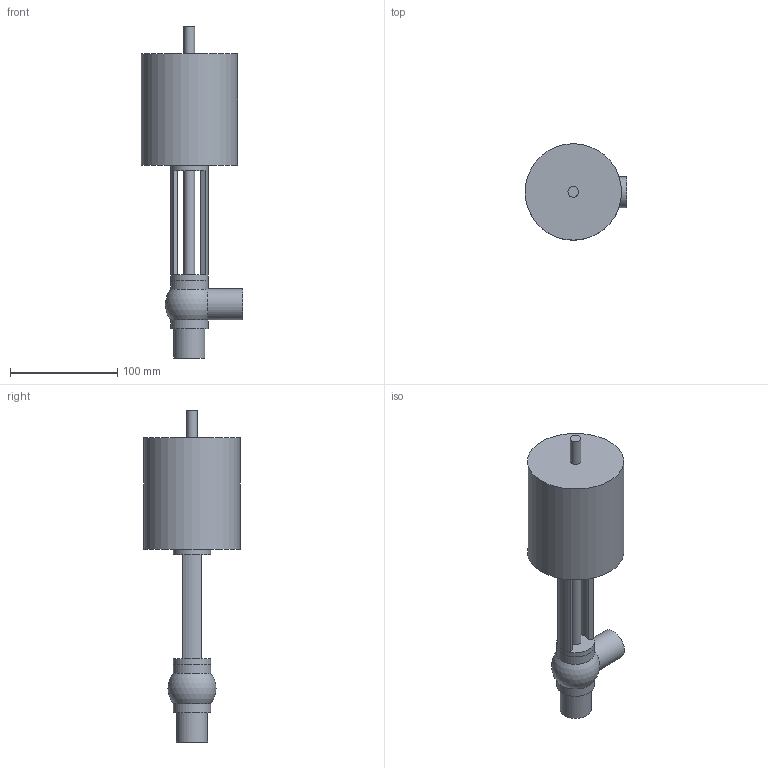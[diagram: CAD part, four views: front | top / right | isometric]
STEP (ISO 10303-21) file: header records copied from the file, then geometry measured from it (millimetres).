
FILE_DESCRIPTION(('FreeCAD Model'),'2;1');
FILE_NAME('/home/martin/Documents/proyect/valves/stp/valve_L_DN-25.step' ,'2018-01-12T21:56:31',('Author'),(''), 'Open CASCADE STEP processor 6.8','FreeCAD','Unknown');
FILE_SCHEMA(('AUTOMOTIVE_DESIGN_CC2 { 1 2 10303 214 -1 1 5 4 }'));
Length unit declared in the file: millimetre
Products named in the file (3): ASSEMBLY; valve_L_DN-25-body; valve_L_DN-25-head
Assembly tree (2 placements, depth 2):
  ASSEMBLY
    valve_L_DN-25-body
    valve_L_DN-25-head
Bounding box: 95 x 90 x 310 mm (x, y, z)
Volume: 725972.1 mm3; surface area: 77884.2 mm2
Topology: 2 solids, 2 shells, 33 faces, 76 edges, 48 vertices
Faces by surface type: cylinder 16, plane 15, sphere 2
Full cylindrical faces by diameter (mm): 10 x2, 26 x2, 29 x2, 35 x4, 90 x1
Entity records: 2543 total; most frequent: CARTESIAN_POINT 829, DIRECTION 316, ORIENTED_EDGE 150, PCURVE 150, DEFINITIONAL_REPRESENTATION 150, LINE 131, VECTOR 131, AXIS2_PLACEMENT_3D 79
